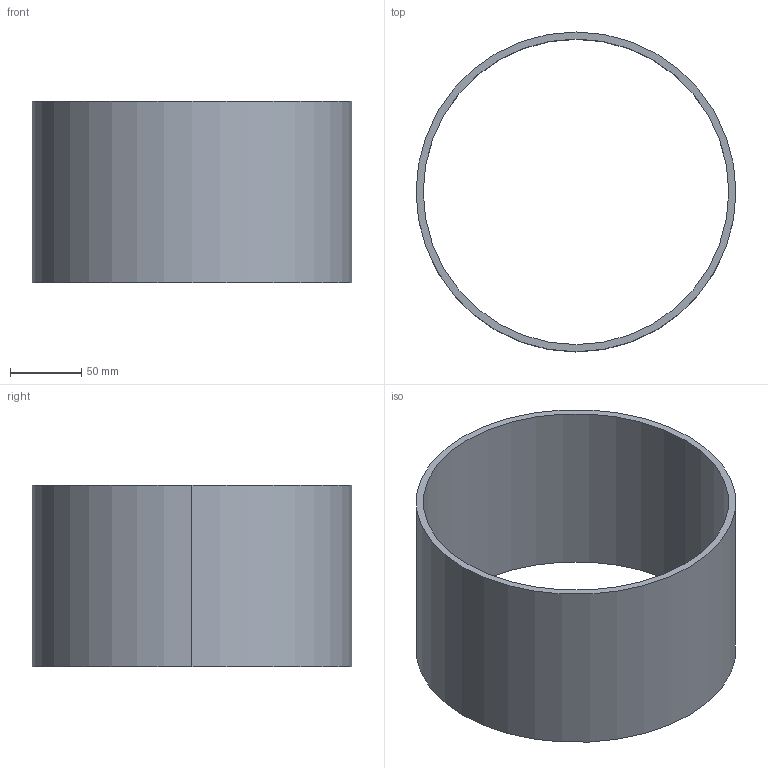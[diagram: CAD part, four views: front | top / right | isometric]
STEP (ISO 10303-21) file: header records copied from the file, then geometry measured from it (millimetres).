
FILE_DESCRIPTION(('CATIA V5 STEP Exchange'),'2;1');
FILE_NAME('C:\_Andres\UNIVERSIDAD\IQS\ASIGNATURAS\DAO\EXF\EXF-15161c\1original\Hoque_Tumanguil_Ej07-tabla_v12.stp','2016-03-04T21:16:34+00:00',('none'),('none'),'CATIA Version 5 Release 20 SP 1 (IN-10)','CATIA V5 STEP AP203','none');
FILE_SCHEMA(('CONFIG_CONTROL_DESIGN'));
Length unit declared in the file: millimetre
Products named in the file (1): Hoque_Tumanguil_Ej07-tabla_v12
Bounding box: 224 x 224 x 127 mm (x, y, z)
Volume: 436885.6 mm3; surface area: 181634.3 mm2
Topology: 1 solids, 1 shells, 6 faces, 13 edges, 10 vertices
Faces by surface type: cylinder 4, plane 2
Entity records: 208 total; most frequent: CARTESIAN_POINT 29, ORIENTED_EDGE 24, DIRECTION 23, AXIS2_PLACEMENT_3D 14, EDGE_CURVE 12, CIRCLE 8, EDGE_LOOP 8, VERTEX_POINT 8
